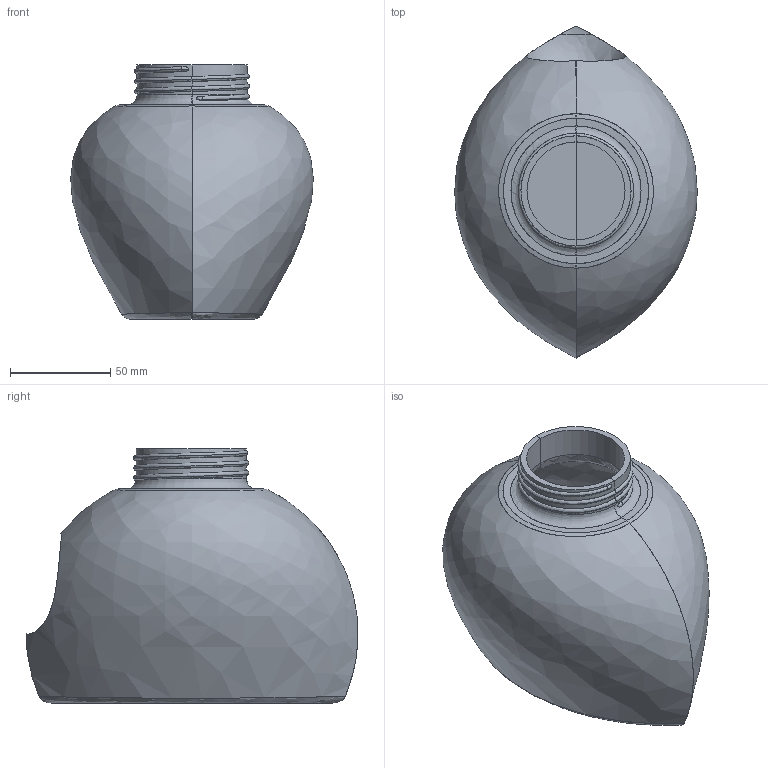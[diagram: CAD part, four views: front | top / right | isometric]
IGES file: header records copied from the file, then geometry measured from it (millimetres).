
Start section: START RECORD GO HERE.
Global section: file name: c1-Coca_Domingo_Sergi-solucion-posible.igs; native system: IBM CATIA IGES - CATIA Version 5 Release 19 ; preprocessor: CATIA Version 5 Release 19 ; author: andres.garcia; organization: IQS; date: 20200131.143916; units: millimetre
Bounding box: 121.28 x 165.95 x 127 mm (x, y, z)
Surface area: 114541.7 mm2 (no closed solid volume)
Topology: 0 solids, 0 shells, 54 faces, 252 edges, 248 vertices
Faces by surface type: bspline 32, revolution 16, plane 6
